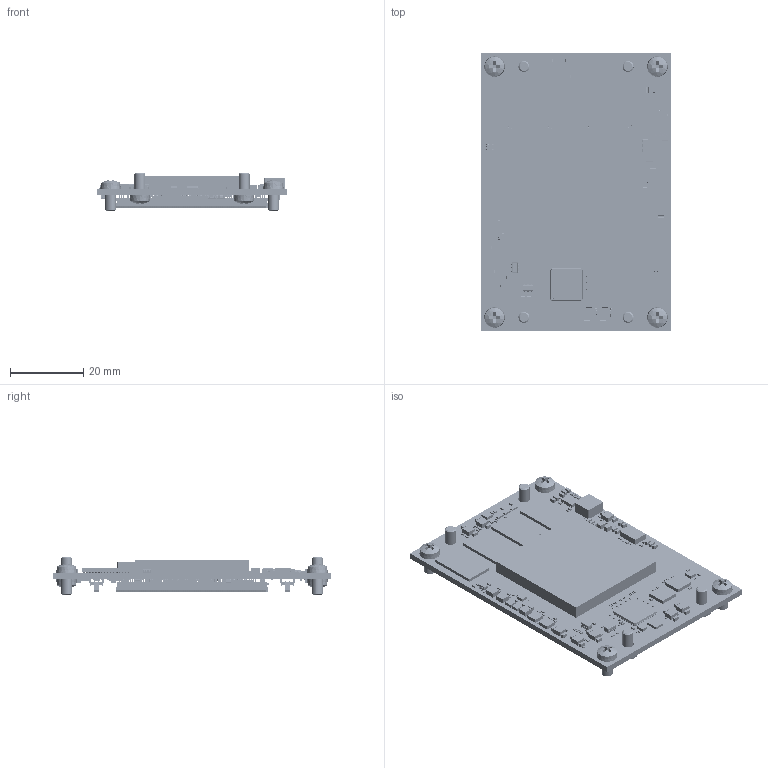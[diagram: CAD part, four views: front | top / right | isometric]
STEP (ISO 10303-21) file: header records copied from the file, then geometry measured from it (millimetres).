
FILE_DESCRIPTION(('Open CASCADE Model'),'2;1');
FILE_NAME('Open CASCADE Shape Model','2024-07-05T11:16:10',('Author'),( 'Open CASCADE'),'Open CASCADE STEP processor 7.5','Open CASCADE 7.5' ,'Unknown');
FILE_SCHEMA(('AUTOMOTIVE_DESIGN { 1 0 10303 214 1 1 1 1 }'));
Length unit declared in the file: millimetre
Products named in the file (518): PCB; Board; Open CASCADE STEP translator 7.5 1.1.1; C236; User Library-SMD CAPACITOR0402; C235; C234; 5682348688; R111; 5682343248; C233; C232; C231; C230; C229; C228; User Library-SMD 0201 CAPACITOR; C227; C226; C225; C224; C223; C222; C221; C220; C219; C218; R109; 5682352608; R107; 5682344688; R106; C217; C212; C211; 5682338448; C205; 5682347888; C97; C216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
Assembly tree (910 placements, depth 4):
  PCB
    Board
      Open CASCADE STEP translator 7.5 1.1.1
    C236
      User Library-SMD CAPACITOR0402
    C235
      User Library-SMD CAPACITOR0402
    C234
      5682348688
    R111
      5682343248
    C233
      User Library-SMD CAPACITOR0402
    C232
      User Library-SMD CAPACITOR0402
    C231
      User Library-SMD CAPACITOR0402
    C230
      User Library-SMD CAPACITOR0402
    C229
      User Library-SMD CAPACITOR0402
    C228
      User Library-SMD 0201 CAPACITOR
    C227
      User Library-SMD CAPACITOR0402
    C226
      User Library-SMD CAPACITOR0402
    C225
      User Library-SMD CAPACITOR0402
    C224
      User Library-SMD CAPACITOR0402
    C223
      User Library-SMD CAPACITOR0402
    C222
      User Library-SMD CAPACITOR0402
    C221
      User Library-SMD CAPACITOR0402
    C220
      User Library-SMD CAPACITOR0402
    C219
      User Library-SMD 0201 CAPACITOR
    C218
      User Library-SMD CAPACITOR0402
    R109
      5682352608
    R107
      5682344688
    R106
      5682343248
    C217
      5682348688
    C212
      5682348688
    C211
      5682338448
    C205
      5682347888
    C97
      User Library-SMD 0201 CAPACITOR
    C216
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Bounding box: 52 x 76 x 10.3 mm (x, y, z)
Volume: 12678 mm3; surface area: 25249.1 mm2
Topology: 1473 solids, 1481 shells, 44112 faces, 117211 edges, 72482 vertices
Faces by surface type: plane 29417, cylinder 10044, sphere 3420, bspline 1149, cone 48, torus 34
Full cylindrical faces by diameter (mm): 0.4 x2, 0.6 x16, 0.8 x6, 1 x6, 1.2 x1, 3.2 x8
Entity records: 382204 total; most frequent: CARTESIAN_POINT 70511, ORIENTED_EDGE 51486, DIRECTION 47383, EDGE_CURVE 25743, LINE 20631, VECTOR 20631, VERTEX_POINT 16928, AXIS2_PLACEMENT_3D 13376
